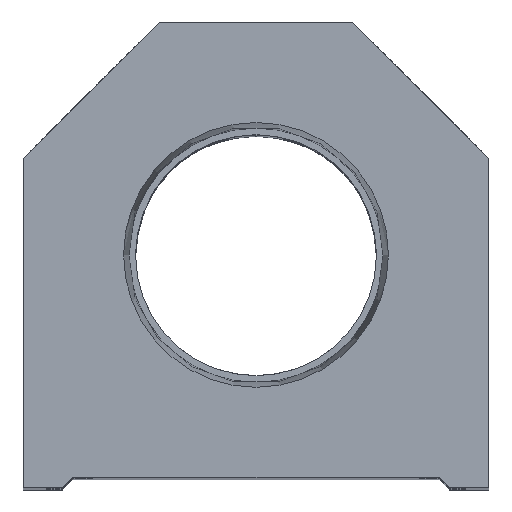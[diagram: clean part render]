
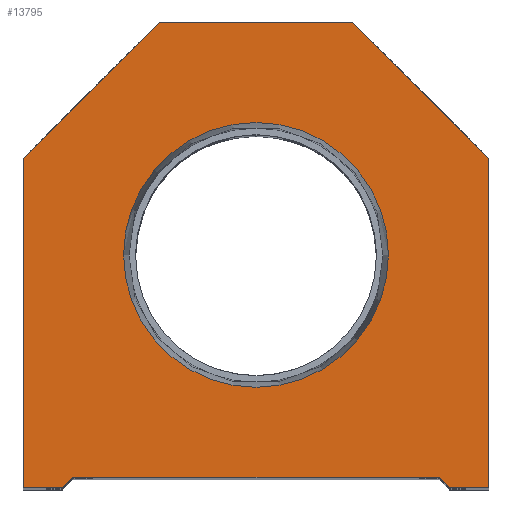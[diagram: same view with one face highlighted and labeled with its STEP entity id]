
A CAD part, top view. The second image highlights one B-rep face of the part: STEP entity #13795.
In plain terms, the highlighted planar face has unit normal (0, 0, 1).
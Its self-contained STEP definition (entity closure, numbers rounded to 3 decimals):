
#35 = CARTESIAN_POINT ( 'NONE',  ( -22.25, 0., 0. ) ) ;
#70 = VECTOR ( 'NONE', #16083, 1000. ) ;
#709 = VECTOR ( 'NONE', #15298, 1000. ) ;
#860 = VECTOR ( 'NONE', #7377, 1000. ) ;
#992 = EDGE_CURVE ( 'NONE', #16721, #16836, #9224, .T. ) ;
#1015 = ORIENTED_EDGE ( 'NONE', *, *, #14563, .T. ) ;
#1228 = EDGE_CURVE ( 'NONE', #13388, #1841, #7403, .T. ) ;
#1276 = DIRECTION ( 'NONE',  ( 1., 0., 0. ) ) ;
#1733 = EDGE_CURVE ( 'NONE', #8262, #5087, #3348, .T. ) ;
#1739 = VECTOR ( 'NONE', #8055, 1000. ) ;
#1821 = CARTESIAN_POINT ( 'NONE',  ( 22.25, 0., 0. ) ) ;
#1841 = VERTEX_POINT ( 'NONE', #11549 ) ;
#1914 = CARTESIAN_POINT ( 'NONE',  ( 0., 22.25, 0. ) ) ;
#2085 = ORIENTED_EDGE ( 'NONE', *, *, #3451, .T. ) ;
#2127 = CARTESIAN_POINT ( 'NONE',  ( 22.25, 0., 0. ) ) ;
#2733 = CARTESIAN_POINT ( 'NONE',  ( 22.25, 31.5, 0. ) ) ;
#2797 = CARTESIAN_POINT ( 'NONE',  ( -22.25, 31.5, 0. ) ) ;
#3010 = EDGE_CURVE ( 'NONE', #5087, #11509, #4872, .T. ) ;
#3252 = CARTESIAN_POINT ( 'NONE',  ( -9.25, 9.25, 0. ) ) ;
#3316 = ORIENTED_EDGE ( 'NONE', *, *, #6074, .F. ) ;
#3348 = LINE ( 'NONE', #3252, #709 ) ;
#3451 = EDGE_CURVE ( 'NONE', #12957, #7644, #11767, .T. ) ;
#3900 = CARTESIAN_POINT ( 'NONE',  ( -18.5, 0., 0. ) ) ;
#4766 = DIRECTION ( 'NONE',  ( 0., 0., 1. ) ) ;
#4872 = LINE ( 'NONE', #17383, #5898 ) ;
#4925 = CARTESIAN_POINT ( 'NONE',  ( 12.647, 22.25, 0. ) ) ;
#5074 = CARTESIAN_POINT ( 'NONE',  ( -22.25, 31.5, 0. ) ) ;
#5087 = VERTEX_POINT ( 'NONE', #10938 ) ;
#5149 = CARTESIAN_POINT ( 'NONE',  ( 9.25, 44.5, 0. ) ) ;
#5241 = DIRECTION ( 'NONE',  ( -1., 0., 0. ) ) ;
#5244 = CARTESIAN_POINT ( 'NONE',  ( 17.5, 0., 0. ) ) ;
#5846 = DIRECTION ( 'NONE',  ( 1., 0., 0. ) ) ;
#5898 = VECTOR ( 'NONE', #1276, 1000. ) ;
#5991 = DIRECTION ( 'NONE',  ( 1., 0., 0. ) ) ;
#6074 = EDGE_CURVE ( 'NONE', #16836, #16721, #12478, .T. ) ;
#6426 = CARTESIAN_POINT ( 'NONE',  ( -12.647, 22.25, 0. ) ) ;
#6599 = LINE ( 'NONE', #14516, #9945 ) ;
#6681 = ORIENTED_EDGE ( 'NONE', *, *, #1733, .T. ) ;
#6792 = ORIENTED_EDGE ( 'NONE', *, *, #16894, .T. ) ;
#6908 = CARTESIAN_POINT ( 'NONE',  ( -9.25, 44.5, 0. ) ) ;
#6934 = DIRECTION ( 'NONE',  ( -0.707, 0.707, 0. ) ) ;
#6965 = AXIS2_PLACEMENT_3D ( 'NONE', #1914, #4766, #5846 ) ;
#6981 = ORIENTED_EDGE ( 'NONE', *, *, #12881, .T. ) ;
#7029 = CARTESIAN_POINT ( 'NONE',  ( 17.5, 1., 0. ) ) ;
#7138 = AXIS2_PLACEMENT_3D ( 'NONE', #12081, #9218, #14412 ) ;
#7222 = DIRECTION ( 'NONE',  ( 0., 1., 0. ) ) ;
#7311 = ORIENTED_EDGE ( 'NONE', *, *, #3010, .T. ) ;
#7377 = DIRECTION ( 'NONE',  ( 1., 0., 0. ) ) ;
#7403 = LINE ( 'NONE', #2127, #15242 ) ;
#7644 = VERTEX_POINT ( 'NONE', #6908 ) ;
#7729 = FACE_BOUND ( 'NONE', #16054, .T. ) ;
#7902 = EDGE_LOOP ( 'NONE', ( #14867, #6681, #7311, #6981, #1015, #11121, #8872, #2085, #6792, #16516 ) ) ;
#7905 = PLANE ( 'NONE',  #7138 ) ;
#8055 = DIRECTION ( 'NONE',  ( 0., -1., 0. ) ) ;
#8091 = LINE ( 'NONE', #2733, #12001 ) ;
#8237 = CARTESIAN_POINT ( 'NONE',  ( 18.5, 0., 0. ) ) ;
#8262 = VERTEX_POINT ( 'NONE', #3900 ) ;
#8434 = VECTOR ( 'NONE', #5241, 1000. ) ;
#8872 = ORIENTED_EDGE ( 'NONE', *, *, #15499, .T. ) ;
#8963 = EDGE_CURVE ( 'NONE', #9723, #8262, #15396, .T. ) ;
#9218 = DIRECTION ( 'NONE',  ( 0., 0., 1. ) ) ;
#9224 = CIRCLE ( 'NONE', #6965, 12.647 ) ;
#9723 = VERTEX_POINT ( 'NONE', #35 ) ;
#9945 = VECTOR ( 'NONE', #17331, 1000. ) ;
#10046 = ORIENTED_EDGE ( 'NONE', *, *, #992, .F. ) ;
#10938 = CARTESIAN_POINT ( 'NONE',  ( -17.5, 1., 0. ) ) ;
#11096 = CARTESIAN_POINT ( 'NONE',  ( -22.25, 0., 0. ) ) ;
#11121 = ORIENTED_EDGE ( 'NONE', *, *, #1228, .T. ) ;
#11451 = VECTOR ( 'NONE', #16391, 1000. ) ;
#11509 = VERTEX_POINT ( 'NONE', #7029 ) ;
#11549 = CARTESIAN_POINT ( 'NONE',  ( 22.25, 31.5, 0. ) ) ;
#11767 = LINE ( 'NONE', #13172, #8434 ) ;
#12001 = VECTOR ( 'NONE', #6934, 1000. ) ;
#12081 = CARTESIAN_POINT ( 'NONE',  ( 0., 0., 0. ) ) ;
#12320 = LINE ( 'NONE', #11096, #1739 ) ;
#12478 = CIRCLE ( 'NONE', #17300, 12.647 ) ;
#12703 = CARTESIAN_POINT ( 'NONE',  ( -17.5, 0., 0. ) ) ;
#12881 = EDGE_CURVE ( 'NONE', #11509, #13993, #6599, .T. ) ;
#12957 = VERTEX_POINT ( 'NONE', #5149 ) ;
#13155 = FACE_OUTER_BOUND ( 'NONE', #7902, .T. ) ;
#13172 = CARTESIAN_POINT ( 'NONE',  ( 9.25, 44.5, 0. ) ) ;
#13388 = VERTEX_POINT ( 'NONE', #1821 ) ;
#13529 = LINE ( 'NONE', #5244, #11451 ) ;
#13581 = LINE ( 'NONE', #2797, #70 ) ;
#13795 = ADVANCED_FACE ( 'NONE', ( #7729, #13155 ), #7905, .T. ) ;
#13993 = VERTEX_POINT ( 'NONE', #8237 ) ;
#14050 = EDGE_CURVE ( 'NONE', #16242, #9723, #12320, .T. ) ;
#14412 = DIRECTION ( 'NONE',  ( 1., 0., 0. ) ) ;
#14516 = CARTESIAN_POINT ( 'NONE',  ( 9.25, 9.25, 0. ) ) ;
#14563 = EDGE_CURVE ( 'NONE', #13993, #13388, #13529, .T. ) ;
#14867 = ORIENTED_EDGE ( 'NONE', *, *, #8963, .T. ) ;
#15090 = CARTESIAN_POINT ( 'NONE',  ( 0., 22.25, 0. ) ) ;
#15242 = VECTOR ( 'NONE', #7222, 1000. ) ;
#15298 = DIRECTION ( 'NONE',  ( 0.707, 0.707, 0. ) ) ;
#15396 = LINE ( 'NONE', #12703, #860 ) ;
#15434 = DIRECTION ( 'NONE',  ( 0., 0., 1. ) ) ;
#15499 = EDGE_CURVE ( 'NONE', #1841, #12957, #8091, .T. ) ;
#16054 = EDGE_LOOP ( 'NONE', ( #10046, #3316 ) ) ;
#16083 = DIRECTION ( 'NONE',  ( -0.707, -0.707, 0. ) ) ;
#16242 = VERTEX_POINT ( 'NONE', #5074 ) ;
#16391 = DIRECTION ( 'NONE',  ( 1., 0., 0. ) ) ;
#16516 = ORIENTED_EDGE ( 'NONE', *, *, #14050, .T. ) ;
#16721 = VERTEX_POINT ( 'NONE', #4925 ) ;
#16836 = VERTEX_POINT ( 'NONE', #6426 ) ;
#16894 = EDGE_CURVE ( 'NONE', #7644, #16242, #13581, .T. ) ;
#17300 = AXIS2_PLACEMENT_3D ( 'NONE', #15090, #15434, #5991 ) ;
#17331 = DIRECTION ( 'NONE',  ( 0.707, -0.707, 0. ) ) ;
#17383 = CARTESIAN_POINT ( 'NONE',  ( -17.5, 1., 0. ) ) ;
